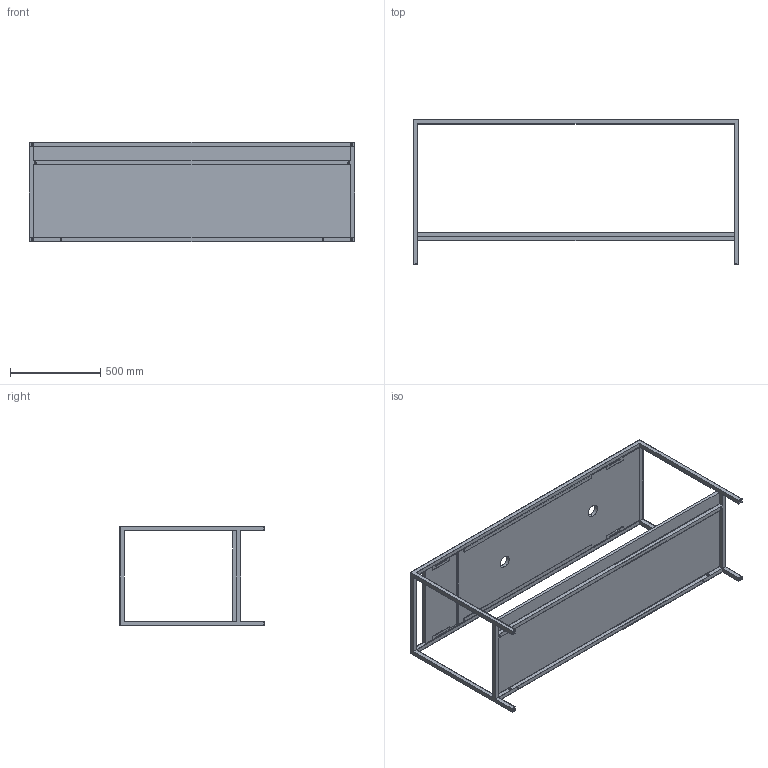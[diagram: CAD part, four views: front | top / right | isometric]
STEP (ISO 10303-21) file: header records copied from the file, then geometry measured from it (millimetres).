
FILE_DESCRIPTION (( 'STEP AP203' ), '1' );
FILE_NAME ('STP 180 03.STEP', '2019-02-04T14:19:34', ( '' ), ( '' ), 'SwSTEP 2.0', 'SolidWorks 2019', '' );
FILE_SCHEMA (( 'CONFIG_CONTROL_DESIGN' ));
Length unit declared in the file: millimetre
Products named in the file (5): PIANO180; STP 180 03; PIANETTO; PIANO MISURA 142 2f; struttura STAND180
Assembly tree (4 placements, depth 2):
  STP 180 03
    struttura STAND180
    PIANO MISURA 142 2f
    PIANETTO
    PIANO180
Bounding box: 1800 x 800 x 550 mm (x, y, z)
Volume: 34848156.2 mm3; surface area: 6113668.9 mm2
Topology: 4 solids, 4 shells, 199 faces, 536 edges, 336 vertices
Faces by surface type: plane 135, cylinder 56, torus 8
Entity records: 6785 total; most frequent: CARTESIAN_POINT 1078, ORIENTED_EDGE 1072, DIRECTION 1068, EDGE_CURVE 536, VECTOR 416, LINE 416, VERTEX_POINT 336, AXIS2_PLACEMENT_3D 326
